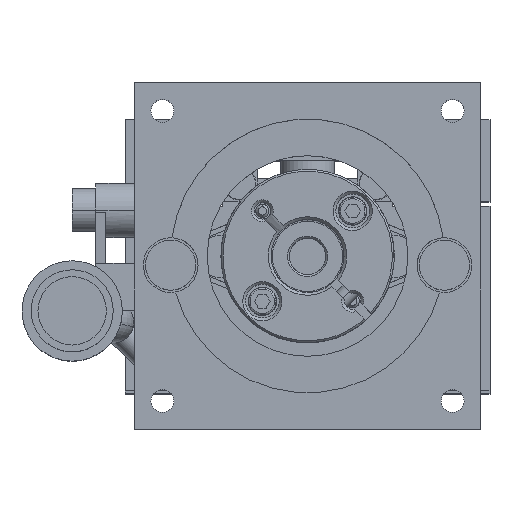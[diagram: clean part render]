
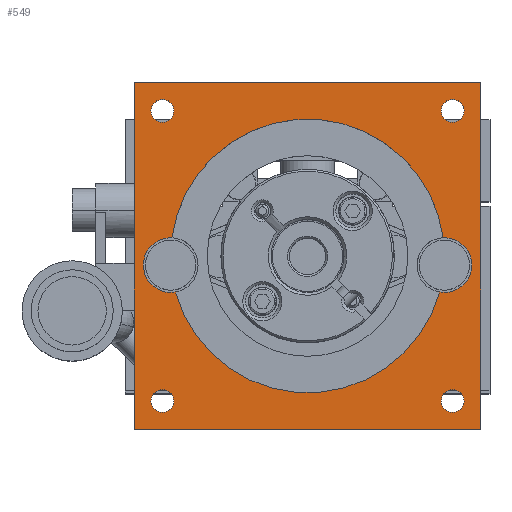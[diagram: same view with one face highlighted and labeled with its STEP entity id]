
A CAD part, top view. The second image highlights one B-rep face of the part: STEP entity #549.
In plain terms, the highlighted planar face has unit normal (0, 0, 1).
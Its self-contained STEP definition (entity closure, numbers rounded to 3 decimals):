
#549=ADVANCED_FACE('',(#1873,#1874,#1875,#1876,#1877,#1878),#1879,.T.);
#1873=FACE_BOUND('',#3838,.T.);
#1874=FACE_BOUND('',#3839,.T.);
#1875=FACE_BOUND('',#3840,.T.);
#1876=FACE_BOUND('',#3841,.T.);
#1877=FACE_BOUND('',#3842,.T.);
#1878=FACE_OUTER_BOUND('',#3843,.T.);
#1879=PLANE('',#3844);
#3838=EDGE_LOOP('',(#8036,#8037));
#3839=EDGE_LOOP('',(#8038,#8039));
#3840=EDGE_LOOP('',(#8040,#8041));
#3841=EDGE_LOOP('',(#8042,#8043));
#3842=EDGE_LOOP('',(#8044,#8045,#8046,#8047,#8048,#8049,#8050,#8051));
#3843=EDGE_LOOP('',(#8052,#8053,#8054,#8055));
#3844=AXIS2_PLACEMENT_3D('',#8056,#8057,#8058);
#8036=ORIENTED_EDGE('',*,*,#12630,.T.);
#8037=ORIENTED_EDGE('',*,*,#13237,.T.);
#8038=ORIENTED_EDGE('',*,*,#12617,.T.);
#8039=ORIENTED_EDGE('',*,*,#13238,.T.);
#8040=ORIENTED_EDGE('',*,*,#12613,.T.);
#8041=ORIENTED_EDGE('',*,*,#13239,.T.);
#8042=ORIENTED_EDGE('',*,*,#12608,.T.);
#8043=ORIENTED_EDGE('',*,*,#13240,.T.);
#8044=ORIENTED_EDGE('',*,*,#13231,.F.);
#8045=ORIENTED_EDGE('',*,*,#13235,.T.);
#8046=ORIENTED_EDGE('',*,*,#12639,.T.);
#8047=ORIENTED_EDGE('',*,*,#13236,.T.);
#8048=ORIENTED_EDGE('',*,*,#13227,.F.);
#8049=ORIENTED_EDGE('',*,*,#12643,.F.);
#8050=ORIENTED_EDGE('',*,*,#13232,.F.);
#8051=ORIENTED_EDGE('',*,*,#12647,.F.);
#8052=ORIENTED_EDGE('',*,*,#13241,.T.);
#8053=ORIENTED_EDGE('',*,*,#13242,.T.);
#8054=ORIENTED_EDGE('',*,*,#13243,.T.);
#8055=ORIENTED_EDGE('',*,*,#13244,.T.);
#8056=CARTESIAN_POINT('',(-19.,-4.3,30.5));
#8057=DIRECTION('',(0.,0.,1.0));
#8058=DIRECTION('',(0.,-1.0,0.));
#12608=EDGE_CURVE('',#15352,#15356,#15358,.T.);
#12613=EDGE_CURVE('',#15360,#15366,#15368,.T.);
#12617=EDGE_CURVE('',#15370,#15374,#15376,.T.);
#12630=EDGE_CURVE('',#15396,#15400,#15402,.T.);
#12639=EDGE_CURVE('',#15414,#15418,#15420,.T.);
#12643=EDGE_CURVE('',#15426,#15428,#15429,.T.);
#12647=EDGE_CURVE('',#15434,#15422,#15436,.T.);
#13227=EDGE_CURVE('',#15428,#16391,#16393,.T.);
#13231=EDGE_CURVE('',#16396,#15434,#16398,.T.);
#13232=EDGE_CURVE('',#15422,#15426,#16399,.T.);
#13235=EDGE_CURVE('',#16396,#15414,#16402,.T.);
#13236=EDGE_CURVE('',#15418,#16391,#16403,.T.);
#13237=EDGE_CURVE('',#15400,#15396,#16404,.T.);
#13238=EDGE_CURVE('',#15374,#15370,#16405,.T.);
#13239=EDGE_CURVE('',#15366,#15360,#16406,.T.);
#13240=EDGE_CURVE('',#15356,#15352,#16407,.T.);
#13241=EDGE_CURVE('',#16408,#16409,#16410,.T.);
#13242=EDGE_CURVE('',#16409,#16411,#16412,.T.);
#13243=EDGE_CURVE('',#16411,#16413,#16414,.T.);
#13244=EDGE_CURVE('',#16413,#16408,#16415,.T.);
#15352=VERTEX_POINT('',#19315);
#15356=VERTEX_POINT('',#19320);
#15358=CIRCLE('',#19323,1.25);
#15360=VERTEX_POINT('',#19325);
#15366=VERTEX_POINT('',#19332);
#15368=CIRCLE('',#19335,1.25);
#15370=VERTEX_POINT('',#19337);
#15374=VERTEX_POINT('',#19342);
#15376=CIRCLE('',#19345,1.25);
#15396=VERTEX_POINT('',#19369);
#15400=VERTEX_POINT('',#19374);
#15402=CIRCLE('',#19377,1.25);
#15414=VERTEX_POINT('',#19391);
#15418=VERTEX_POINT('',#19396);
#15420=CIRCLE('',#19399,3.);
#15422=VERTEX_POINT('',#19401);
#15426=VERTEX_POINT('',#19406);
#15428=VERTEX_POINT('',#19409);
#15429=CIRCLE('',#19410,3.);
#15434=VERTEX_POINT('',#19416);
#15436=CIRCLE('',#19419,3.);
#16391=VERTEX_POINT('',#21039);
#16393=CIRCLE('',#21042,15.);
#16396=VERTEX_POINT('',#21045);
#16398=CIRCLE('',#21048,15.);
#16399=CIRCLE('',#21049,3.);
#16402=CIRCLE('',#21052,3.);
#16403=CIRCLE('',#21053,3.);
#16404=CIRCLE('',#21054,1.25);
#16405=CIRCLE('',#21055,1.25);
#16406=CIRCLE('',#21056,1.25);
#16407=CIRCLE('',#21057,1.25);
#16408=VERTEX_POINT('',#21058);
#16409=VERTEX_POINT('',#21059);
#16410=LINE('',#21060,#21061);
#16411=VERTEX_POINT('',#21062);
#16412=LINE('',#21063,#21064);
#16413=VERTEX_POINT('',#21065);
#16414=LINE('',#21066,#21067);
#16415=LINE('',#21068,#21069);
#19315=CARTESIAN_POINT('',(17.16,30.61,30.5));
#19320=CARTESIAN_POINT('',(14.66,30.61,30.5));
#19323=AXIS2_PLACEMENT_3D('',#24939,#24940,#24941);
#19325=CARTESIAN_POINT('',(-15.91,31.86,30.5));
#19332=CARTESIAN_POINT('',(-15.91,29.36,30.5));
#19335=AXIS2_PLACEMENT_3D('',#24950,#24951,#24952);
#19337=CARTESIAN_POINT('',(-17.16,-1.21,30.5));
#19342=CARTESIAN_POINT('',(-14.66,-1.21,30.5));
#19345=AXIS2_PLACEMENT_3D('',#24958,#24959,#24960);
#19369=CARTESIAN_POINT('',(15.91,-2.46,30.5));
#19374=CARTESIAN_POINT('',(15.91,0.04,30.5));
#19377=AXIS2_PLACEMENT_3D('',#24985,#24986,#24987);
#19391=CARTESIAN_POINT('',(15.,16.7,30.5));
#19396=CARTESIAN_POINT('',(15.,10.7,30.5));
#19399=AXIS2_PLACEMENT_3D('',#25004,#25005,#25006);
#19401=CARTESIAN_POINT('',(-15.,16.7,30.5));
#19406=CARTESIAN_POINT('',(-15.,10.7,30.5));
#19409=CARTESIAN_POINT('',(-14.47,10.747,30.5));
#19410=AXIS2_PLACEMENT_3D('',#25012,#25013,#25014);
#19416=CARTESIAN_POINT('',(-14.866,16.697,30.5));
#19419=AXIS2_PLACEMENT_3D('',#25020,#25021,#25022);
#21039=CARTESIAN_POINT('',(14.47,10.747,30.5));
#21042=AXIS2_PLACEMENT_3D('',#26058,#26059,#26060);
#21045=CARTESIAN_POINT('',(14.866,16.697,30.5));
#21048=AXIS2_PLACEMENT_3D('',#26068,#26069,#26070);
#21049=AXIS2_PLACEMENT_3D('',#26071,#26072,#26073);
#21052=AXIS2_PLACEMENT_3D('',#26080,#26081,#26082);
#21053=AXIS2_PLACEMENT_3D('',#26083,#26084,#26085);
#21054=AXIS2_PLACEMENT_3D('',#26086,#26087,#26088);
#21055=AXIS2_PLACEMENT_3D('',#26089,#26090,#26091);
#21056=AXIS2_PLACEMENT_3D('',#26092,#26093,#26094);
#21057=AXIS2_PLACEMENT_3D('',#26095,#26096,#26097);
#21058=CARTESIAN_POINT('',(-19.,33.7,30.5));
#21059=CARTESIAN_POINT('',(-19.,-4.3,30.5));
#21060=CARTESIAN_POINT('',(-19.,33.7,30.5));
#21061=VECTOR('',#26098,1000.0);
#21062=CARTESIAN_POINT('',(19.,-4.3,30.5));
#21063=CARTESIAN_POINT('',(-19.,-4.3,30.5));
#21064=VECTOR('',#26099,1000.0);
#21065=CARTESIAN_POINT('',(19.,33.7,30.5));
#21066=CARTESIAN_POINT('',(19.,-4.3,30.5));
#21067=VECTOR('',#26100,1000.0);
#21068=CARTESIAN_POINT('',(19.,33.7,30.5));
#21069=VECTOR('',#26101,1000.0);
#24939=CARTESIAN_POINT('',(15.91,30.61,30.5));
#24940=DIRECTION('',(0.,0.,-1.0));
#24941=DIRECTION('',(1.0,0.,0.));
#24950=CARTESIAN_POINT('',(-15.91,30.61,30.5));
#24951=DIRECTION('',(0.,0.,-1.0));
#24952=DIRECTION('',(0.,1.0,0.));
#24958=CARTESIAN_POINT('',(-15.91,-1.21,30.5));
#24959=DIRECTION('',(0.,0.,-1.0));
#24960=DIRECTION('',(-1.0,0.,0.));
#24985=CARTESIAN_POINT('',(15.91,-1.21,30.5));
#24986=DIRECTION('',(0.,0.,-1.0));
#24987=DIRECTION('',(0.,-1.0,0.));
#25004=CARTESIAN_POINT('',(15.,13.7,30.5));
#25005=DIRECTION('',(0.,0.,-1.0));
#25006=DIRECTION('',(0.,1.0,0.));
#25012=CARTESIAN_POINT('',(-15.,13.7,30.5));
#25013=DIRECTION('',(0.,0.,1.0));
#25014=DIRECTION('',(0.,1.0,0.));
#25020=CARTESIAN_POINT('',(-15.,13.7,30.5));
#25021=DIRECTION('',(0.,0.,1.0));
#25022=DIRECTION('',(0.,1.0,0.));
#26058=CARTESIAN_POINT('',(0.,14.7,30.5));
#26059=DIRECTION('',(0.,0.,1.0));
#26060=DIRECTION('',(1.0,0.,0.));
#26068=CARTESIAN_POINT('',(0.,14.7,30.5));
#26069=DIRECTION('',(0.,0.,1.0));
#26070=DIRECTION('',(1.0,0.,0.));
#26071=CARTESIAN_POINT('',(-15.,13.7,30.5));
#26072=DIRECTION('',(0.,0.,1.0));
#26073=DIRECTION('',(0.,1.0,0.));
#26080=CARTESIAN_POINT('',(15.,13.7,30.5));
#26081=DIRECTION('',(0.,0.,-1.0));
#26082=DIRECTION('',(0.,1.0,0.));
#26083=CARTESIAN_POINT('',(15.,13.7,30.5));
#26084=DIRECTION('',(0.,0.,-1.0));
#26085=DIRECTION('',(0.,1.0,0.));
#26086=CARTESIAN_POINT('',(15.91,-1.21,30.5));
#26087=DIRECTION('',(0.,0.,-1.0));
#26088=DIRECTION('',(0.,-1.0,0.));
#26089=CARTESIAN_POINT('',(-15.91,-1.21,30.5));
#26090=DIRECTION('',(0.,0.,-1.0));
#26091=DIRECTION('',(-1.0,0.,0.));
#26092=CARTESIAN_POINT('',(-15.91,30.61,30.5));
#26093=DIRECTION('',(0.,0.,-1.0));
#26094=DIRECTION('',(0.,1.0,0.));
#26095=CARTESIAN_POINT('',(15.91,30.61,30.5));
#26096=DIRECTION('',(0.,0.,-1.0));
#26097=DIRECTION('',(1.0,0.,0.));
#26098=DIRECTION('',(0.,-1.0,0.));
#26099=DIRECTION('',(1.0,0.,0.));
#26100=DIRECTION('',(0.,1.0,0.));
#26101=DIRECTION('',(-1.0,0.,0.));
